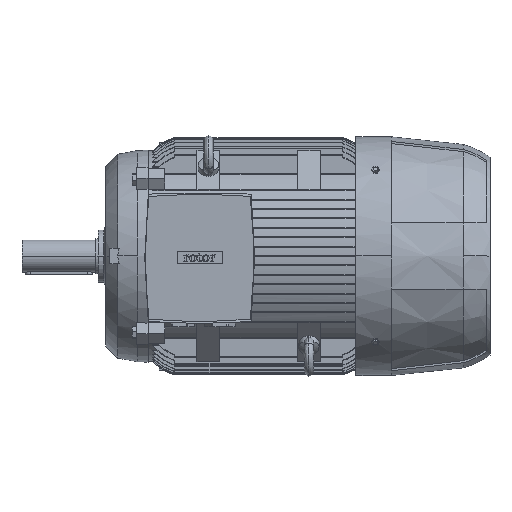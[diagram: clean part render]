
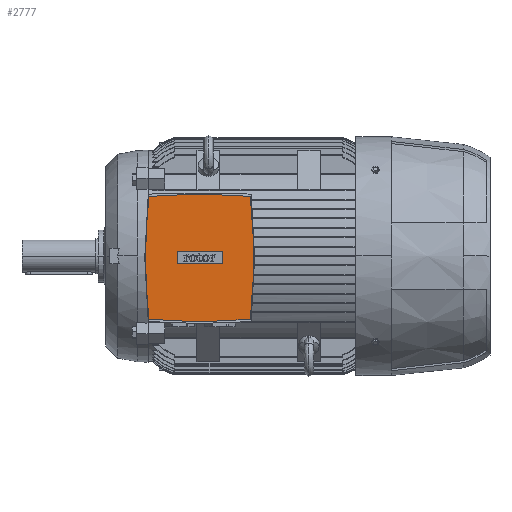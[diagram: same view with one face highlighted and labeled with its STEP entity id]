
A CAD part, top view. The second image highlights one B-rep face of the part: STEP entity #2777.
In plain terms, the highlighted planar face has unit normal (0, 0, 1).
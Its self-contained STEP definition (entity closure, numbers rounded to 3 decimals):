
#18 = CARTESIAN_POINT ( 'NONE',  ( -678.5, -3., 286. ) ) ;
#1238 = CARTESIAN_POINT ( 'NONE',  ( 77., -12.05, 286. ) ) ;
#1981 = ORIENTED_EDGE ( 'NONE', *, *, #25095, .F. ) ;
#2539 = FACE_OUTER_BOUND ( 'NONE', #51441, .T. ) ;
#2777 = ADVANCED_FACE ( 'NONE', ( #2539, #6298 ), #7199, .T. ) ;
#3260 = VERTEX_POINT ( 'NONE', #4318 ) ;
#3464 = VERTEX_POINT ( 'NONE', #34372 ) ;
#4031 = DIRECTION ( 'NONE',  ( -1., 0., 0. ) ) ;
#4301 = CIRCLE ( 'NONE', #23697, 1019.7 ) ;
#4318 = CARTESIAN_POINT ( 'NONE',  ( -3.5, -3., 286. ) ) ;
#4944 = CARTESIAN_POINT ( 'NONE',  ( 152.455, 88.704, 286. ) ) ;
#4970 = EDGE_CURVE ( 'NONE', #5910, #15980, #14864, .T. ) ;
#5045 = CARTESIAN_POINT ( 'NONE',  ( 1.545, 88.704, 286. ) ) ;
#5123 = EDGE_CURVE ( 'NONE', #15980, #48178, #43237, .T. ) ;
#5346 = EDGE_CURVE ( 'NONE', #48178, #31848, #35707, .T. ) ;
#5352 = EDGE_CURVE ( 'NONE', #31848, #5910, #14214, .T. ) ;
#5910 = VERTEX_POINT ( 'NONE', #52143 ) ;
#6298 = FACE_BOUND ( 'NONE', #38240, .T. ) ;
#6834 = DIRECTION ( 'NONE',  ( 1., 0., 0. ) ) ;
#7009 = DIRECTION ( 'NONE',  ( 0., 0., 1. ) ) ;
#7199 = PLANE ( 'NONE',  #8456 ) ;
#7971 = ORIENTED_EDGE ( 'NONE', *, *, #14893, .F. ) ;
#8182 = DIRECTION ( 'NONE',  ( 0., 0., -1. ) ) ;
#8456 = AXIS2_PLACEMENT_3D ( 'NONE', #11868, #7009, #6834 ) ;
#11035 = CARTESIAN_POINT ( 'NONE',  ( 77., -928.2, 286. ) ) ;
#11295 = CIRCLE ( 'NONE', #36020, 836. ) ;
#11572 = DIRECTION ( 'NONE',  ( 0., 0., -1. ) ) ;
#11868 = CARTESIAN_POINT ( 'NONE',  ( 77., -3., 286. ) ) ;
#12615 = CIRCLE ( 'NONE', #23297, 836. ) ;
#12871 = VERTEX_POINT ( 'NONE', #37311 ) ;
#13311 = DIRECTION ( 'NONE',  ( -1., 0., 0. ) ) ;
#13951 = ORIENTED_EDGE ( 'NONE', *, *, #5346, .T. ) ;
#14214 = LINE ( 'NONE', #15801, #45089 ) ;
#14864 = LINE ( 'NONE', #1238, #25580 ) ;
#14893 = EDGE_CURVE ( 'NONE', #24294, #41238, #4301, .T. ) ;
#14956 = EDGE_CURVE ( 'NONE', #3260, #24294, #12615, .T. ) ;
#15025 = EDGE_CURVE ( 'NONE', #12871, #3464, #30232, .T. ) ;
#15031 = EDGE_CURVE ( 'NONE', #41238, #12871, #23304, .T. ) ;
#15047 = DIRECTION ( 'NONE',  ( -1., 0., 0. ) ) ;
#15801 = CARTESIAN_POINT ( 'NONE',  ( 110.75, -3., 286. ) ) ;
#15980 = VERTEX_POINT ( 'NONE', #42946 ) ;
#16101 = DIRECTION ( 'NONE',  ( 0., 0., -1. ) ) ;
#19655 = CARTESIAN_POINT ( 'NONE',  ( 77., 6.05, 286. ) ) ;
#19835 = DIRECTION ( 'NONE',  ( 0., -1., 0. ) ) ;
#21111 = ORIENTED_EDGE ( 'NONE', *, *, #14956, .F. ) ;
#21116 = ORIENTED_EDGE ( 'NONE', *, *, #5352, .T. ) ;
#22496 = CARTESIAN_POINT ( 'NONE',  ( 43.25, -3., 286. ) ) ;
#22897 = AXIS2_PLACEMENT_3D ( 'NONE', #18, #28270, #4031 ) ;
#23148 = AXIS2_PLACEMENT_3D ( 'NONE', #40227, #16101, #44284 ) ;
#23297 = AXIS2_PLACEMENT_3D ( 'NONE', #35729, #11572, #39710 ) ;
#23304 = CIRCLE ( 'NONE', #22897, 836. ) ;
#23697 = AXIS2_PLACEMENT_3D ( 'NONE', #11035, #39196, #15047 ) ;
#24294 = VERTEX_POINT ( 'NONE', #5045 ) ;
#25095 = EDGE_CURVE ( 'NONE', #3464, #3260, #11295, .T. ) ;
#25580 = VECTOR ( 'NONE', #13311, 1000. ) ;
#26588 = DIRECTION ( 'NONE',  ( 0., 1., 0. ) ) ;
#28270 = DIRECTION ( 'NONE',  ( 0., 0., -1. ) ) ;
#30232 = CIRCLE ( 'NONE', #23148, 1019.7 ) ;
#31848 = VERTEX_POINT ( 'NONE', #34986 ) ;
#32404 = CARTESIAN_POINT ( 'NONE',  ( 832.5, -3., 286. ) ) ;
#34332 = ORIENTED_EDGE ( 'NONE', *, *, #5123, .T. ) ;
#34372 = CARTESIAN_POINT ( 'NONE',  ( 1.545, -94.704, 286. ) ) ;
#34986 = CARTESIAN_POINT ( 'NONE',  ( 110.75, 6.05, 286. ) ) ;
#35651 = ORIENTED_EDGE ( 'NONE', *, *, #4970, .T. ) ;
#35707 = LINE ( 'NONE', #19655, #46351 ) ;
#35729 = CARTESIAN_POINT ( 'NONE',  ( 832.5, -3., 286. ) ) ;
#36020 = AXIS2_PLACEMENT_3D ( 'NONE', #32404, #8182, #36454 ) ;
#36454 = DIRECTION ( 'NONE',  ( -1., 0., 0. ) ) ;
#37311 = CARTESIAN_POINT ( 'NONE',  ( 152.455, -94.704, 286. ) ) ;
#38240 = EDGE_LOOP ( 'NONE', ( #13951, #21116, #35651, #34332 ) ) ;
#39196 = DIRECTION ( 'NONE',  ( 0., 0., -1. ) ) ;
#39710 = DIRECTION ( 'NONE',  ( -1., 0., 0. ) ) ;
#39938 = DIRECTION ( 'NONE',  ( 1., 0., 0. ) ) ;
#40227 = CARTESIAN_POINT ( 'NONE',  ( 77., 922.2, 286. ) ) ;
#41238 = VERTEX_POINT ( 'NONE', #4944 ) ;
#41978 = ORIENTED_EDGE ( 'NONE', *, *, #15031, .F. ) ;
#42946 = CARTESIAN_POINT ( 'NONE',  ( 43.25, -12.05, 286. ) ) ;
#43237 = LINE ( 'NONE', #22496, #51376 ) ;
#43692 = CARTESIAN_POINT ( 'NONE',  ( 43.25, 6.05, 286. ) ) ;
#43952 = ORIENTED_EDGE ( 'NONE', *, *, #15025, .F. ) ;
#44284 = DIRECTION ( 'NONE',  ( -1., 0., 0. ) ) ;
#45089 = VECTOR ( 'NONE', #19835, 1000. ) ;
#46351 = VECTOR ( 'NONE', #39938, 1000. ) ;
#48178 = VERTEX_POINT ( 'NONE', #43692 ) ;
#51376 = VECTOR ( 'NONE', #26588, 1000. ) ;
#51441 = EDGE_LOOP ( 'NONE', ( #7971, #21111, #1981, #43952, #41978 ) ) ;
#52143 = CARTESIAN_POINT ( 'NONE',  ( 110.75, -12.05, 286. ) ) ;
